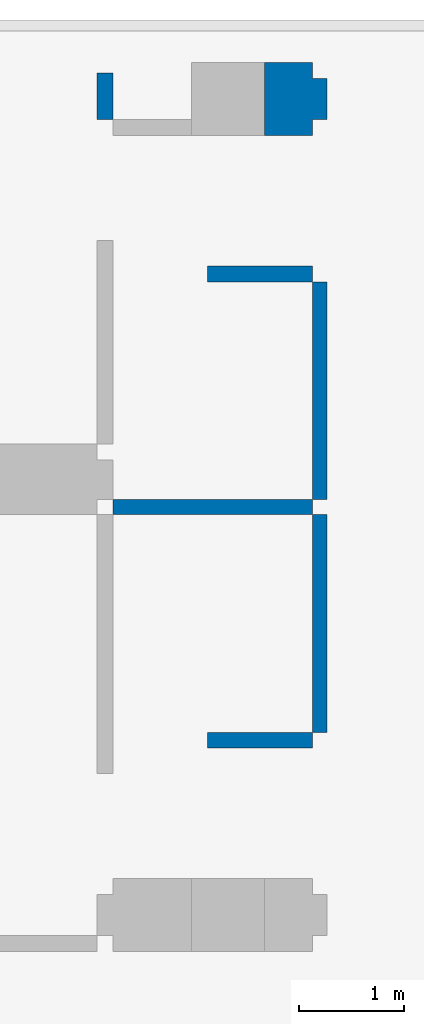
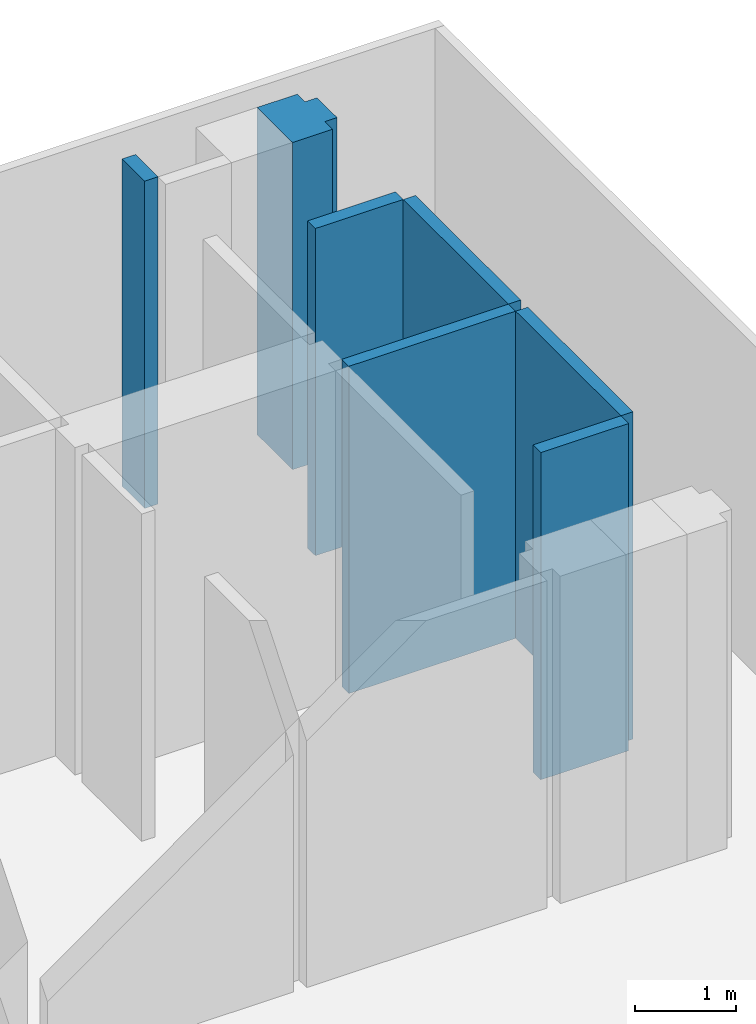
# One storey, part 3 of 4: 7 walls.
"""IFC4 building model written with IfcOpenShell, lengths in millimetres."""

import ifcopenshell
import ifcopenshell.guid

model = None  # the IFC model being written
_history = None  # IfcOwnerHistory: only IFC2X3 demands one
_inside = {}  # id of a spatial element -> (the spatial element, [elements in it])
_under = {}  # id of a project, library or spatial element -> (it, [spatial elements below it])
_declared = {}  # id of a project -> (the project, [libraries it declares])
_typed = {}  # id of a type object -> (the type object, [elements of that type])
_made_of = {}  # id of a material, layer set ... -> (it, [elements and type objects made of it])


def new_model(schema):
    """Start an empty IFC model of exactly this schema.

    Asked for "IFC4X3", IfcOpenShell would pick the latest addendum, in which some entities
    have other attributes; the version numbers below select the first issue.
    IFC2X3 requires an IfcOwnerHistory on every rooted entity: one is made here for all.
    """
    global model, _history
    if schema == "IFC4X3":
        model = ifcopenshell.file(schema_version=(4, 3, 0, 0))
    else:
        model = ifcopenshell.file(schema=schema)
    _inside.clear()
    _under.clear()
    _declared.clear()
    _typed.clear()
    _made_of.clear()
    _history = None
    if model.schema == "IFC2X3":
        org = make("IfcOrganization", Name="unknown")
        user = make(
            "IfcPersonAndOrganization",
            ThePerson=make("IfcPerson", FamilyName="unknown"),
            TheOrganization=org,
        )
        app = make(
            "IfcApplication",
            ApplicationDeveloper=org,
            Version="unknown",
            ApplicationFullName="unknown",
            ApplicationIdentifier="unknown",
        )
        _history = make(
            "IfcOwnerHistory",
            OwningUser=user,
            OwningApplication=app,
            ChangeAction="ADDED",
            CreationDate=0,
        )
    return model


def make(cls, **values):
    """One entity of the class cls with the attributes given. An attribute that is None is left unset."""
    return model.create_entity(
        cls, **{name: value for name, value in values.items() if value is not None}
    )


def rooted(cls, **values):
    """An entity with a GlobalId (a new one), such as an element, a storey or a relation."""
    return make(cls, GlobalId=ifcopenshell.guid.new(), OwnerHistory=_history, **values)


def si_unit(unit_type, name, prefix=None):
    """IfcSIUnit, for example si_unit("LENGTHUNIT", "METRE", prefix="MILLI")."""
    return make("IfcSIUnit", UnitType=unit_type, Prefix=prefix, Name=name)


def assignment(units):
    """IfcUnitAssignment: the units of a project."""
    return None if units is None else make("IfcUnitAssignment", Units=units)


def point(xyz):
    """IfcCartesianPoint."""
    return None if xyz is None else make("IfcCartesianPoint", Coordinates=xyz)


def direction(xyz):
    """IfcDirection."""
    return None if xyz is None else make("IfcDirection", DirectionRatios=xyz)


def frame(location, z_axis=None, x_axis=None):
    """IfcAxis2Placement3D, a coordinate frame: its origin and axes. An axis left out is left unset."""
    return make(
        "IfcAxis2Placement3D",
        Location=point(location),
        Axis=direction(z_axis),
        RefDirection=direction(x_axis),
    )


def origin():
    """The frame at (0, 0, 0) with its axes left unset."""
    return frame((0.0, 0.0, 0.0))


def place(relative_to, where):
    """IfcLocalPlacement: puts the frame where relative to a parent placement (None: the world)."""
    return make(
        "IfcLocalPlacement", PlacementRelTo=relative_to, RelativePlacement=where
    )


def context(
    kind, dimensions, precision=None, world=None, true_north=None, identifier=None
):
    """IfcGeometricRepresentationContext, for example the 3D "Model" context."""
    return make(
        "IfcGeometricRepresentationContext",
        ContextIdentifier=identifier,
        ContextType=kind,
        CoordinateSpaceDimension=dimensions,
        Precision=precision,
        WorldCoordinateSystem=world,
        TrueNorth=true_north,
    )


def project(units=None, contexts=None):
    """IfcProject with its units and contexts."""
    return rooted(
        "IfcProject",
        Name="project",
        RepresentationContexts=contexts,
        UnitsInContext=assignment(units),
    )


def spatial(cls, under=None, at=None, **own):
    """A site, building, storey or space (cls), placed at a placement, below another one or the project."""
    s = rooted(cls, ObjectPlacement=at, **own)
    if under is not None:
        _under.setdefault(under.id(), (under, []))[1].append(s)
    return s


def point_list(points):
    """IfcCartesianPointList2D or 3D."""
    cls = (
        "IfcCartesianPointList2D" if len(points[0]) == 2 else "IfcCartesianPointList3D"
    )
    return make(cls, CoordList=points)


def triangles(points, corners, closed=None, point_numbers=None):
    """IfcTriangulatedFaceSet: each triangle names its three corners, points numbered from 1."""
    return make(
        "IfcTriangulatedFaceSet",
        Coordinates=point_list(points),
        Closed=closed,
        CoordIndex=corners,
        PnIndex=point_numbers,
    )


def shape(context_of_items, identifier, shape_type, items):
    """IfcShapeRepresentation: the items that make up one representation, for example the "Body"."""
    return make(
        "IfcShapeRepresentation",
        ContextOfItems=context_of_items,
        RepresentationIdentifier=identifier,
        RepresentationType=shape_type,
        Items=items,
    )


def made_of(thing, what):
    """Note that an element or type object is made of a material, layer set ...; save() writes the relation."""
    if what is not None:
        _made_of.setdefault(what.id(), (what, []))[1].append(thing)
    return thing


def element(
    cls,
    number,
    at=None,
    inside=None,
    cuts=None,
    type_object=None,
    material=None,
    context=None,
    identifier="Body",
    shape_type=None,
    held_by="IfcProductDefinitionShape",
    body=None,
    shapes=None,
    **own,
):
    """One element of the class cls, such as IfcWall. Its Tag is "e" and its number.

    at: its placement. inside: the storey or other place that contains it. cuts: it is an
    opening in that element (IfcRelVoidsElement). A single representation is given by context,
    identifier, shape_type and body (its items); several are given by shapes. held_by: the class
    of the entity that holds the representations. save() writes the other relations.
    """
    e = rooted(cls, Tag="e%d" % number, ObjectPlacement=at, **own)
    if body is not None:
        shapes = [shape(context, identifier, shape_type, body)]
    if shapes is not None:
        e.Representation = make(held_by, Representations=shapes)
    if inside is not None:
        _inside.setdefault(inside.id(), (inside, []))[1].append(e)
    if cuts is not None:
        rooted(
            "IfcRelVoidsElement", RelatingBuildingElement=cuts, RelatedOpeningElement=e
        )
    if type_object is not None:
        _typed.setdefault(type_object.id(), (type_object, []))[1].append(e)
    return made_of(e, material)


def aggregate(whole, parts):
    """IfcRelAggregates: a whole, such as a stair, and the parts it consists of."""
    return rooted("IfcRelAggregates", RelatingObject=whole, RelatedObjects=parts)


def save(model, path):
    """Write the relations noted so far, then the file.

    IfcRelAggregates (storeys below a building ...), IfcRelContainedInSpatialStructure (elements
    in a storey), IfcRelDefinesByType, IfcRelAssociatesMaterial and IfcRelDeclares: one each for
    every whole, place, type object, material and project.
    """
    for whole, parts in _under.values():
        aggregate(whole, parts)
    for where, things in _inside.values():
        rooted(
            "IfcRelContainedInSpatialStructure",
            RelatedElements=things,
            RelatingStructure=where,
        )
    for kind, things in _typed.values():
        rooted("IfcRelDefinesByType", RelatedObjects=things, RelatingType=kind)
    for what, things in _made_of.values():
        rooted("IfcRelAssociatesMaterial", RelatedObjects=things, RelatingMaterial=what)
    for by, libraries in _declared.values():
        rooted("IfcRelDeclares", RelatingContext=by, RelatedDefinitions=libraries)
    model.write(path)


model = new_model("IFC4")

# Units and contexts
model_context = context("Model", 3, precision=0.001, world=origin())
ifc_project = project(units=[si_unit("LENGTHUNIT", "METRE", prefix="MILLI"), si_unit("AREAUNIT", "SQUARE_METRE"), si_unit("VOLUMEUNIT", "CUBIC_METRE")], contexts=[model_context])

# Site, building, storey
site_placement = place(None, origin())
site = spatial("IfcSite", under=ifc_project, at=site_placement, Name="Site", CompositionType="ELEMENT")
building_placement = place(site_placement, origin())
building = spatial("IfcBuilding", under=site, at=building_placement, Name="INNOCEAN", CompositionType="ELEMENT")
storey_placement = place(building_placement, frame((0.0, 0.0, 34400.0)))
storey = spatial("IfcBuildingStorey", under=building, at=storey_placement, Name="F08", CompositionType="ELEMENT", Elevation=34400.0)

# Walls
wall_1_placement = place(storey_placement, origin())
element("IfcWall", 1, at=wall_1_placement, inside=storey, Name="F08_Walls_F08_072", context=model_context, shape_type="Tessellation", body=[
    triangles([(48568.5, 18865.7, 0.0), (48568.5, 19018.1, 0.0), (48568.5, 19018.1, 3950.0), (48568.5, 18865.7, 3950.0), (47565.8, 18865.7, 0.0), (47565.8, 18865.7, 3950.0), (47565.8, 19018.1, 0.0), (47565.8, 19018.1, 3950.0)], [[1, 2, 3], [1, 3, 4], [5, 1, 4], [5, 4, 6], [7, 5, 6], [7, 6, 8], [2, 7, 8], [2, 8, 3], [7, 2, 1], [7, 1, 5], [3, 8, 4], [4, 8, 6]], closed=True),
])
wall_2_placement = place(storey_placement, origin())
element("IfcWall", 2, at=wall_2_placement, inside=storey, Name="F08_Walls_F08_074", context=model_context, shape_type="Tessellation", body=[
    triangles([(48708.1, 19018.1, 0.0), (48708.1, 21101.1, 0.0), (48708.1, 21101.1, 3950.0), (48708.1, 19018.1, 3950.0), (48568.5, 19018.1, 0.0), (48568.5, 19018.1, 3950.0), (48568.5, 21101.1, 0.0), (48568.5, 21101.1, 3950.0)], [[1, 2, 3], [1, 3, 4], [5, 1, 4], [5, 4, 6], [7, 5, 6], [7, 6, 8], [2, 7, 8], [2, 8, 3], [7, 2, 1], [7, 1, 5], [3, 8, 4], [4, 8, 6]], closed=True),
])
wall_3_placement = place(storey_placement, origin())
element("IfcWall", 3, at=wall_3_placement, inside=storey, Name="F08_Walls_F08_077", context=model_context, shape_type="Tessellation", body=[
    triangles([(48568.5, 21240.8, 0.0), (48568.5, 21240.8, 3950.0), (48568.5, 21101.1, 3950.0), (48568.5, 21101.1, 0.0), (46664.5, 21101.1, 3950.0), (46664.5, 21101.1, 0.0), (46664.5, 21240.8, 3950.0), (46664.5, 21240.8, 0.0)], [[1, 2, 3], [4, 1, 3], [4, 3, 5], [6, 4, 5], [6, 5, 7], [8, 6, 7], [8, 7, 2], [1, 8, 2], [8, 1, 4], [8, 4, 6], [2, 7, 3], [3, 7, 5]], closed=True),
])
wall_4_placement = place(storey_placement, origin())
element("IfcWall", 4, at=wall_4_placement, inside=storey, Name="F08_Walls_F08_078", context=model_context, shape_type="Tessellation", body=[
    triangles([(48708.1, 21240.8, 0.0), (48708.1, 23323.8, 0.0), (48708.1, 23323.8, 3950.0), (48708.1, 21240.8, 3950.0), (48568.5, 21240.8, 0.0), (48568.5, 21240.8, 3950.0), (48568.5, 23323.8, 0.0), (48568.5, 23323.8, 3950.0)], [[1, 2, 3], [1, 3, 4], [5, 1, 4], [5, 4, 6], [7, 5, 6], [7, 6, 8], [2, 7, 8], [2, 8, 3], [7, 2, 1], [7, 1, 5], [3, 8, 4], [4, 8, 6]], closed=True),
])
wall_5_placement = place(storey_placement, origin())
element("IfcWall", 5, at=wall_5_placement, inside=storey, Name="F08_Walls_F08_081", context=model_context, shape_type="Tessellation", body=[
    triangles([(48568.5, 23323.8, 0.0), (48568.5, 23476.2, 0.0), (48568.5, 23476.2, 3950.0), (48568.5, 23323.8, 3950.0), (47565.8, 23323.8, 0.0), (47565.8, 23323.8, 3950.0), (47565.8, 23476.2, 0.0), (47565.8, 23476.2, 3950.0)], [[1, 2, 3], [1, 3, 4], [5, 1, 4], [5, 4, 6], [7, 5, 6], [7, 6, 8], [2, 7, 8], [2, 8, 3], [7, 2, 1], [7, 1, 5], [3, 8, 4], [4, 8, 6]], closed=True),
])
wall_6_placement = place(storey_placement, origin())
element("IfcWall", 6, at=wall_6_placement, inside=storey, Name="F08_Walls_F08_083", context=model_context, shape_type="Tessellation", body=[
    triangles([(48568.5, 25419.5, 0.0), (48111.6, 25419.5, 0.0), (48111.6, 25419.5, 3950.0), (48568.5, 25419.5, 3950.0), (48568.5, 25267.1, 0.0), (48568.5, 25267.1, 3950.0), (48708.1, 25267.1, 0.0), (48708.1, 25267.1, 3950.0), (48708.1, 24873.4, 3950.0), (48708.1, 24873.4, 0.0), (48568.5, 24873.4, 0.0), (48568.5, 24873.4, 3950.0), (48568.5, 24721.0, 0.0), (48568.5, 24721.0, 3950.0), (48111.6, 24721.0, 0.0), (48111.6, 24721.0, 3950.0), (48111.6, 24873.4, 0.0), (48111.6, 24873.4, 3950.0), (48111.6, 25267.1, 3950.0), (48111.6, 25267.1, 0.0)], [[1, 2, 3], [1, 3, 4], [5, 1, 4], [5, 4, 6], [7, 5, 6], [7, 6, 8], [7, 8, 9], [10, 7, 9], [11, 10, 9], [11, 9, 12], [13, 11, 12], [13, 12, 14], [15, 13, 14], [15, 14, 16], [17, 15, 16], [17, 16, 18], [17, 18, 19], [20, 17, 19], [2, 20, 19], [2, 19, 3], [7, 10, 11], [5, 7, 11], [17, 11, 13], [17, 13, 15], [20, 11, 17], [20, 5, 11], [2, 1, 5], [2, 5, 20], [9, 8, 12], [8, 6, 12], [12, 18, 14], [14, 18, 16], [12, 19, 18], [6, 19, 12], [4, 3, 6], [6, 3, 19]], closed=True),
])
wall_7_placement = place(storey_placement, origin())
element("IfcWall", 7, at=wall_7_placement, inside=storey, Name="F08_Walls_F08_084", context=model_context, shape_type="Tessellation", body=[
    triangles([(46512.2, 24873.4, 0.0), (46664.5, 24873.4, 0.0), (46664.5, 24873.4, 3950.0), (46512.2, 24873.4, 3950.0), (46512.2, 25317.9, 0.0), (46512.2, 25317.9, 3950.0), (46664.5, 25317.9, 0.0), (46664.5, 25317.9, 3950.0)], [[1, 2, 3], [1, 3, 4], [5, 1, 4], [5, 4, 6], [7, 5, 6], [7, 6, 8], [2, 7, 8], [2, 8, 3], [5, 2, 1], [5, 7, 2], [3, 6, 4], [8, 6, 3]], closed=True),
])

save(model, "model.ifc")
